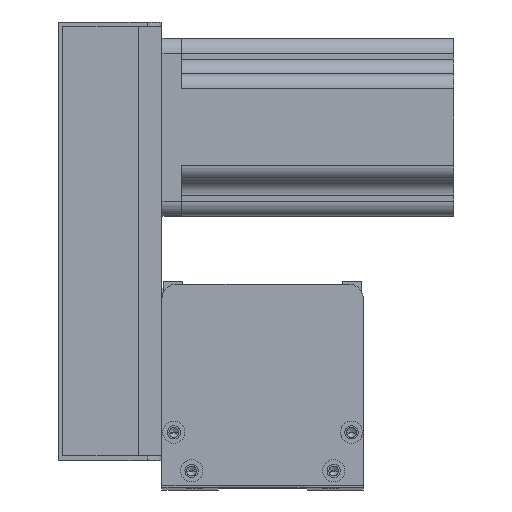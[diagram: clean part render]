
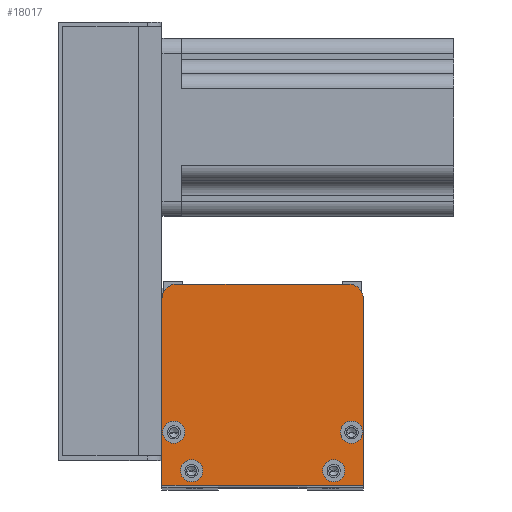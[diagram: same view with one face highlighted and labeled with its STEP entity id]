
A CAD part, top view. The second image highlights one B-rep face of the part: STEP entity #18017.
In plain terms, the highlighted planar face has unit normal (0, 0, 1) as drawn and (0, 0, -1) by its records, which use the part's own axes.
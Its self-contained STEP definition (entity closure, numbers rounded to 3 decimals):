
#80 = ORIENTED_EDGE ( 'NONE', *, *, #15682, .F. ) ;
#209 = LINE ( 'NONE', #14185, #16729 ) ;
#227 = LINE ( 'NONE', #3087, #11495 ) ;
#1137 = ORIENTED_EDGE ( 'NONE', *, *, #10599, .F. ) ;
#1337 = VERTEX_POINT ( 'NONE', #7035 ) ;
#1469 = PLANE ( 'NONE',  #6247 ) ;
#1743 = AXIS2_PLACEMENT_3D ( 'NONE', #24926, #8518, #12541 ) ;
#2135 = EDGE_CURVE ( 'NONE', #12988, #5581, #25471, .T. ) ;
#2401 = CIRCLE ( 'NONE', #22165, 5. ) ;
#3087 = CARTESIAN_POINT ( 'NONE',  ( 0., 0., 0. ) ) ;
#3241 = CARTESIAN_POINT ( 'NONE',  ( 68., 68., 0. ) ) ;
#3628 = LINE ( 'NONE', #3241, #17142 ) ;
#3656 = EDGE_LOOP ( 'NONE', ( #6042, #1137 ) ) ;
#3809 = DIRECTION ( 'NONE',  ( 0., 0., -1. ) ) ;
#3942 = CIRCLE ( 'NONE', #9294, 3.75 ) ;
#4252 = CARTESIAN_POINT ( 'NONE',  ( 6.25, 5., 0. ) ) ;
#4521 = DIRECTION ( 'NONE',  ( -1., 0., 0. ) ) ;
#5112 = ORIENTED_EDGE ( 'NONE', *, *, #11112, .T. ) ;
#5325 = DIRECTION ( 'NONE',  ( 0., -1., 0. ) ) ;
#5534 = VERTEX_POINT ( 'NONE', #19788 ) ;
#5581 = VERTEX_POINT ( 'NONE', #17611 ) ;
#5978 = LINE ( 'NONE', #21381, #19455 ) ;
#6042 = ORIENTED_EDGE ( 'NONE', *, *, #8314, .F. ) ;
#6247 = AXIS2_PLACEMENT_3D ( 'NONE', #10102, #24676, #26239 ) ;
#6282 = CARTESIAN_POINT ( 'NONE',  ( 7.75, 18., 0. ) ) ;
#6482 = DIRECTION ( 'NONE',  ( 0., 0., -1. ) ) ;
#6539 = EDGE_CURVE ( 'NONE', #13173, #5534, #209, .T. ) ;
#7035 = CARTESIAN_POINT ( 'NONE',  ( 0.25, 18., 0. ) ) ;
#7584 = VERTEX_POINT ( 'NONE', #10175 ) ;
#7898 = ORIENTED_EDGE ( 'NONE', *, *, #19007, .F. ) ;
#8247 = AXIS2_PLACEMENT_3D ( 'NONE', #26710, #20336, #9561 ) ;
#8314 = EDGE_CURVE ( 'NONE', #1337, #13055, #10470, .T. ) ;
#8518 = DIRECTION ( 'NONE',  ( 0., 0., -1. ) ) ;
#8770 = ORIENTED_EDGE ( 'NONE', *, *, #2135, .F. ) ;
#8934 = VERTEX_POINT ( 'NONE', #18022 ) ;
#9062 = AXIS2_PLACEMENT_3D ( 'NONE', #16344, #3809, #20626 ) ;
#9294 = AXIS2_PLACEMENT_3D ( 'NONE', #25601, #6482, #15040 ) ;
#9561 = DIRECTION ( 'NONE',  ( 1., 0., 0. ) ) ;
#9640 = CARTESIAN_POINT ( 'NONE',  ( 64., 18., 0. ) ) ;
#9725 = CARTESIAN_POINT ( 'NONE',  ( 4., 18., 0. ) ) ;
#10102 = CARTESIAN_POINT ( 'NONE',  ( 0., 0., 0. ) ) ;
#10175 = CARTESIAN_POINT ( 'NONE',  ( 13.75, 5., 0. ) ) ;
#10277 = EDGE_LOOP ( 'NONE', ( #16806, #19440, #14838, #5112, #25363, #22350 ) ) ;
#10360 = DIRECTION ( 'NONE',  ( 0., 0., -1. ) ) ;
#10470 = CIRCLE ( 'NONE', #19058, 3.75 ) ;
#10599 = EDGE_CURVE ( 'NONE', #13055, #1337, #12000, .T. ) ;
#10918 = AXIS2_PLACEMENT_3D ( 'NONE', #24090, #21408, #15654 ) ;
#11112 = EDGE_CURVE ( 'NONE', #27014, #5534, #24108, .T. ) ;
#11416 = CARTESIAN_POINT ( 'NONE',  ( 0., 63., 0. ) ) ;
#11418 = CARTESIAN_POINT ( 'NONE',  ( 0., 0., 0. ) ) ;
#11428 = EDGE_CURVE ( 'NONE', #7584, #17330, #23109, .T. ) ;
#11495 = VECTOR ( 'NONE', #5325, 1000. ) ;
#11656 = CIRCLE ( 'NONE', #1743, 3.75 ) ;
#11672 = ORIENTED_EDGE ( 'NONE', *, *, #11428, .F. ) ;
#12000 = CIRCLE ( 'NONE', #20869, 3.75 ) ;
#12118 = FACE_BOUND ( 'NONE', #20951, .T. ) ;
#12163 = VERTEX_POINT ( 'NONE', #11418 ) ;
#12431 = ORIENTED_EDGE ( 'NONE', *, *, #20120, .F. ) ;
#12438 = FACE_OUTER_BOUND ( 'NONE', #10277, .T. ) ;
#12541 = DIRECTION ( 'NONE',  ( -1., 0., 0. ) ) ;
#12625 = VERTEX_POINT ( 'NONE', #13320 ) ;
#12988 = VERTEX_POINT ( 'NONE', #24929 ) ;
#13055 = VERTEX_POINT ( 'NONE', #6282 ) ;
#13173 = VERTEX_POINT ( 'NONE', #19317 ) ;
#13320 = CARTESIAN_POINT ( 'NONE',  ( 60.25, 18., 0. ) ) ;
#13624 = DIRECTION ( 'NONE',  ( -1., 0., 0. ) ) ;
#13825 = DIRECTION ( 'NONE',  ( 0., 1., 0. ) ) ;
#14078 = AXIS2_PLACEMENT_3D ( 'NONE', #21237, #15030, #4521 ) ;
#14185 = CARTESIAN_POINT ( 'NONE',  ( 68., 0., 0. ) ) ;
#14375 = CIRCLE ( 'NONE', #10918, 3.75 ) ;
#14838 = ORIENTED_EDGE ( 'NONE', *, *, #15270, .F. ) ;
#15030 = DIRECTION ( 'NONE',  ( 0., 0., -1. ) ) ;
#15040 = DIRECTION ( 'NONE',  ( -1., 0., 0. ) ) ;
#15156 = VERTEX_POINT ( 'NONE', #11416 ) ;
#15270 = EDGE_CURVE ( 'NONE', #27014, #18764, #3628, .T. ) ;
#15654 = DIRECTION ( 'NONE',  ( -1., 0., 0. ) ) ;
#15682 = EDGE_CURVE ( 'NONE', #8934, #12625, #3942, .T. ) ;
#16029 = DIRECTION ( 'NONE',  ( -1., 0., 0. ) ) ;
#16079 = EDGE_LOOP ( 'NONE', ( #7898, #11672 ) ) ;
#16344 = CARTESIAN_POINT ( 'NONE',  ( 58., 5., 0. ) ) ;
#16450 = EDGE_CURVE ( 'NONE', #15156, #12163, #227, .T. ) ;
#16729 = VECTOR ( 'NONE', #13825, 1000. ) ;
#16806 = ORIENTED_EDGE ( 'NONE', *, *, #16450, .F. ) ;
#17142 = VECTOR ( 'NONE', #13624, 1000. ) ;
#17330 = VERTEX_POINT ( 'NONE', #4252 ) ;
#17611 = CARTESIAN_POINT ( 'NONE',  ( 54.25, 5., 0. ) ) ;
#18017 = ADVANCED_FACE ( 'NONE', ( #12118, #20617, #23582, #25588, #12438 ), #1469, .F. ) ;
#18022 = CARTESIAN_POINT ( 'NONE',  ( 67.75, 18., 0. ) ) ;
#18683 = DIRECTION ( 'NONE',  ( 1., 0., 0. ) ) ;
#18764 = VERTEX_POINT ( 'NONE', #25365 ) ;
#19007 = EDGE_CURVE ( 'NONE', #17330, #7584, #14375, .T. ) ;
#19058 = AXIS2_PLACEMENT_3D ( 'NONE', #9725, #24030, #16029 ) ;
#19317 = CARTESIAN_POINT ( 'NONE',  ( 68., 0., 0. ) ) ;
#19440 = ORIENTED_EDGE ( 'NONE', *, *, #24823, .T. ) ;
#19455 = VECTOR ( 'NONE', #23499, 1000. ) ;
#19764 = DIRECTION ( 'NONE',  ( 0., 0., -1. ) ) ;
#19788 = CARTESIAN_POINT ( 'NONE',  ( 68., 63., 0. ) ) ;
#19856 = DIRECTION ( 'NONE',  ( -1., 0., 0. ) ) ;
#20120 = EDGE_CURVE ( 'NONE', #12625, #8934, #23353, .T. ) ;
#20336 = DIRECTION ( 'NONE',  ( 0., 0., -1. ) ) ;
#20412 = DIRECTION ( 'NONE',  ( -1., 0., 0. ) ) ;
#20617 = FACE_BOUND ( 'NONE', #3656, .T. ) ;
#20626 = DIRECTION ( 'NONE',  ( -1., 0., 0. ) ) ;
#20701 = ORIENTED_EDGE ( 'NONE', *, *, #24903, .F. ) ;
#20869 = AXIS2_PLACEMENT_3D ( 'NONE', #25954, #19764, #19856 ) ;
#20940 = CARTESIAN_POINT ( 'NONE',  ( 5., 63., 0. ) ) ;
#20951 = EDGE_LOOP ( 'NONE', ( #12431, #80 ) ) ;
#21237 = CARTESIAN_POINT ( 'NONE',  ( 10., 5., 0. ) ) ;
#21381 = CARTESIAN_POINT ( 'NONE',  ( 68., 0., 0. ) ) ;
#21408 = DIRECTION ( 'NONE',  ( 0., 0., -1. ) ) ;
#21887 = DIRECTION ( 'NONE',  ( 0., 0., -1. ) ) ;
#22165 = AXIS2_PLACEMENT_3D ( 'NONE', #20940, #10360, #18683 ) ;
#22343 = EDGE_LOOP ( 'NONE', ( #20701, #8770 ) ) ;
#22350 = ORIENTED_EDGE ( 'NONE', *, *, #25571, .F. ) ;
#23109 = CIRCLE ( 'NONE', #14078, 3.75 ) ;
#23353 = CIRCLE ( 'NONE', #23441, 3.75 ) ;
#23441 = AXIS2_PLACEMENT_3D ( 'NONE', #9640, #21887, #20412 ) ;
#23499 = DIRECTION ( 'NONE',  ( 1., 0., 0. ) ) ;
#23582 = FACE_BOUND ( 'NONE', #16079, .T. ) ;
#24030 = DIRECTION ( 'NONE',  ( 0., 0., -1. ) ) ;
#24090 = CARTESIAN_POINT ( 'NONE',  ( 10., 5., 0. ) ) ;
#24108 = CIRCLE ( 'NONE', #8247, 5. ) ;
#24676 = DIRECTION ( 'NONE',  ( 0., 0., 1. ) ) ;
#24823 = EDGE_CURVE ( 'NONE', #15156, #18764, #2401, .T. ) ;
#24903 = EDGE_CURVE ( 'NONE', #5581, #12988, #11656, .T. ) ;
#24926 = CARTESIAN_POINT ( 'NONE',  ( 58., 5., 0. ) ) ;
#24929 = CARTESIAN_POINT ( 'NONE',  ( 61.75, 5., 0. ) ) ;
#25363 = ORIENTED_EDGE ( 'NONE', *, *, #6539, .F. ) ;
#25365 = CARTESIAN_POINT ( 'NONE',  ( 5., 68., 0. ) ) ;
#25471 = CIRCLE ( 'NONE', #9062, 3.75 ) ;
#25571 = EDGE_CURVE ( 'NONE', #12163, #13173, #5978, .T. ) ;
#25588 = FACE_BOUND ( 'NONE', #22343, .T. ) ;
#25601 = CARTESIAN_POINT ( 'NONE',  ( 64., 18., 0. ) ) ;
#25954 = CARTESIAN_POINT ( 'NONE',  ( 4., 18., 0. ) ) ;
#26239 = DIRECTION ( 'NONE',  ( 1., 0., 0. ) ) ;
#26710 = CARTESIAN_POINT ( 'NONE',  ( 63., 63., 0. ) ) ;
#27014 = VERTEX_POINT ( 'NONE', #27368 ) ;
#27368 = CARTESIAN_POINT ( 'NONE',  ( 63., 68., 0. ) ) ;
